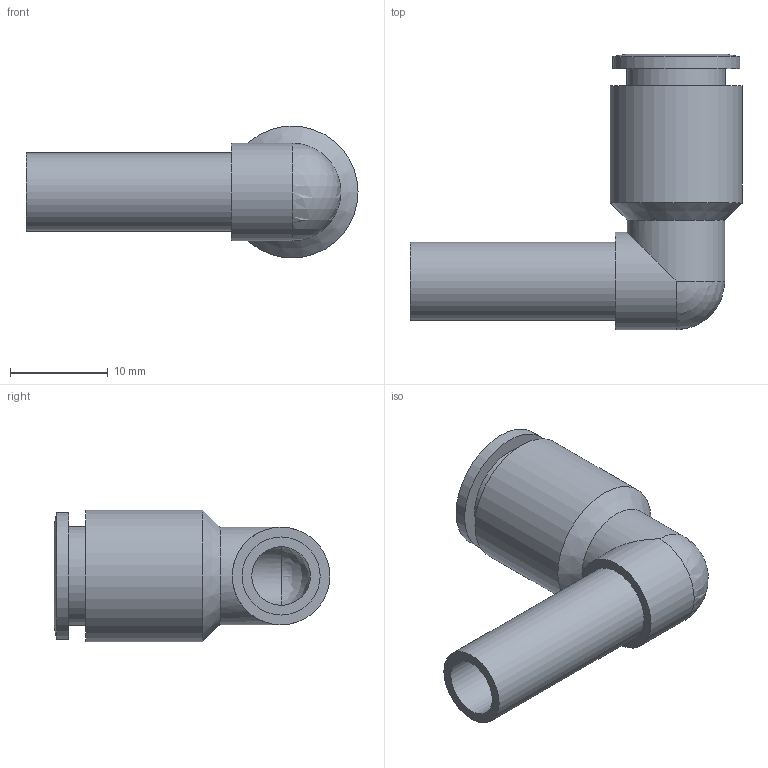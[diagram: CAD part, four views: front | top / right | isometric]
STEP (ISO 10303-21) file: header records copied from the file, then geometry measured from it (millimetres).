
FILE_DESCRIPTION((''),'2;1');
FILE_NAME('C:\Documents and Settings\rivolro1\Documenti\copia di Raccordi\PLASTICA\T04XXL0\T0408L0.stp','2007-10-30T15:45:51',('Rivolro1'),(''),'Autodesk Inventor 2008','Autodesk Inventor 2008','');
FILE_SCHEMA(('AUTOMOTIVE_DESIGN { 1 0 10303 214 1 1 1 1 }'));
Length unit declared in the file: millimetre
Products named in the file (1): T0408L0
Bounding box: 34 x 28.25 x 13.5 mm (x, y, z)
Volume: 2355.5 mm3; surface area: 2951.3 mm2
Topology: 1 solids, 1 shells, 20 faces, 41 edges, 23 vertices
Faces by surface type: cylinder 8, plane 6, bspline 3, cone 2, sphere 1
Full cylindrical faces by diameter (mm): 6 x1, 6.2 x1, 8 x1, 10 x2, 10.1 x1, 13 x1, 13.5 x1
Entity records: 568 total; most frequent: CARTESIAN_POINT 172, DIRECTION 80, ORIENTED_EDGE 48, AXIS2_PLACEMENT_3D 39, EDGE_LOOP 37, EDGE_CURVE 24, VERTEX_POINT 21, CIRCLE 20
